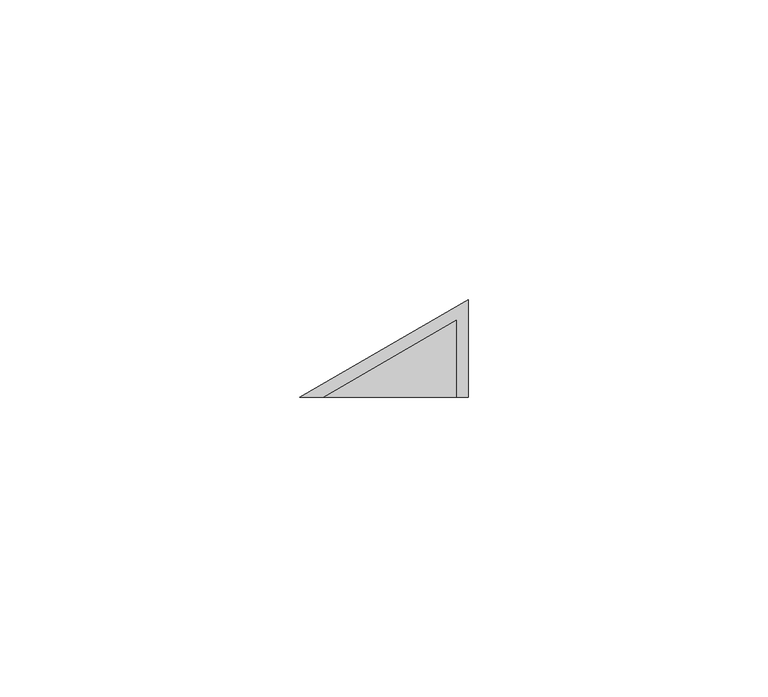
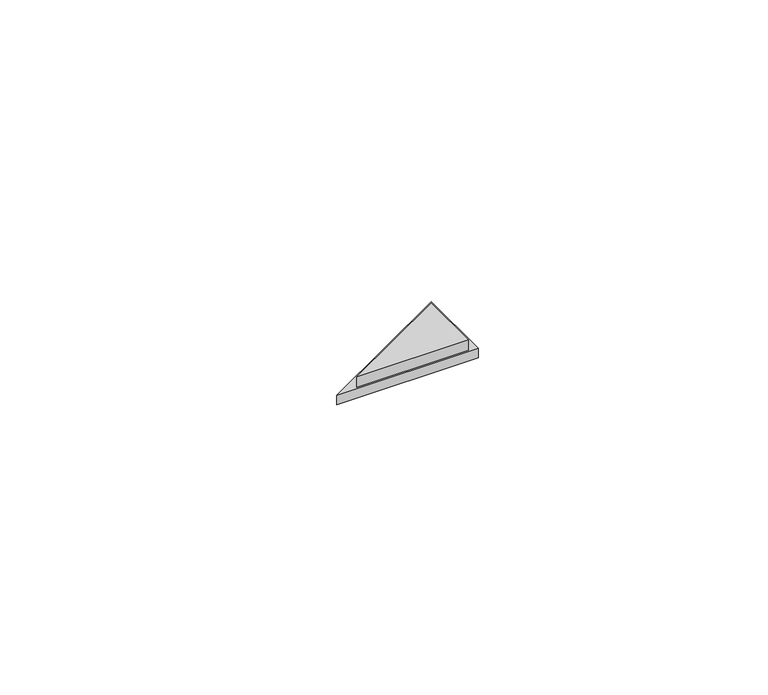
"""IFC4 building model written with IfcOpenShell, lengths in millimetres: proxy geometry, PBSHOP - CUBICA ARGENTO 4,8X8,3 : CUBICA ARGENTO - POSIÇÃO 01."""

from ifc_helpers import new_model, si_unit, frame, origin, origin_with_axes, place, context, project, spatial, polyline, outline, extrude, source, transform, mapped, element, save


def generic_models_3c364290(model_context):
    return source(origin(), model_context, "Body", "SweptSolid", [
        extrude(outline(polyline([(22.7119765, 23.160254), (-5.4544827, 23.160254), (22.7119765, 39.4221668), (22.7119765, 23.160254)])), origin_with_axes(), (0.0, 0.0, 1.0), 2.0),
        extrude(outline(polyline([(20.7119765, 23.160254), (-1.4544827, 23.160254), (20.7119765, 35.9580652), (20.7119765, 23.160254)])), frame((0.0, 0.0, 2.0), z_axis=(0.0, 0.0, 1.0), x_axis=(1.0, 0.0, 0.0)), (0.0, 0.0, 1.0), 2.5),
    ])


if __name__ == "__main__":
    model = new_model("IFC4")
    model_context = context("Model", 3, world=origin())
    ifc_project = project(units=[si_unit("LENGTHUNIT", "METRE", prefix="MILLI")], contexts=[model_context])
    site = spatial("IfcSite", under=ifc_project)
    building = spatial("IfcBuilding", under=site)
    placement = place(None, origin())
    generic_models_shape = generic_models_3c364290(model_context)
    element("IfcBuildingElementProxy", 1, Name="PBSHOP - CUBICA ARGENTO 4,8X8,3 : CUBICA ARGENTO - POSIÇÃO 01", ObjectType="PBSHOP - CUBICA ARGENTO 4,8X8,3 : CUBICA ARGENTO - POSIÇÃO 01", at=placement, inside=building, context=model_context, shape_type="MappedRepresentation", body=[
        mapped(generic_models_shape, transform((0.0, 0.0, 0.0), x_axis=(1.0, 0.0, 0.0), y_axis=(0.0, 1.0, 0.0), z_axis=(0.0, 0.0, 1.0))),
    ])
    save(model, "model.ifc")
